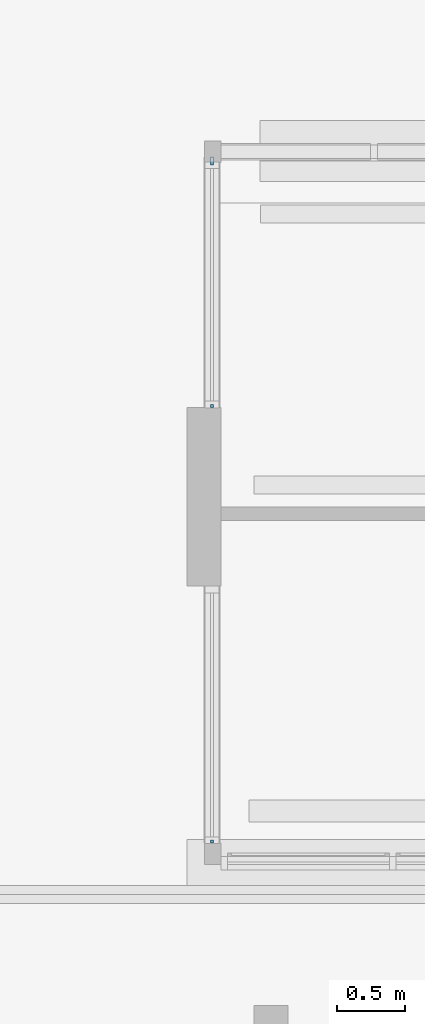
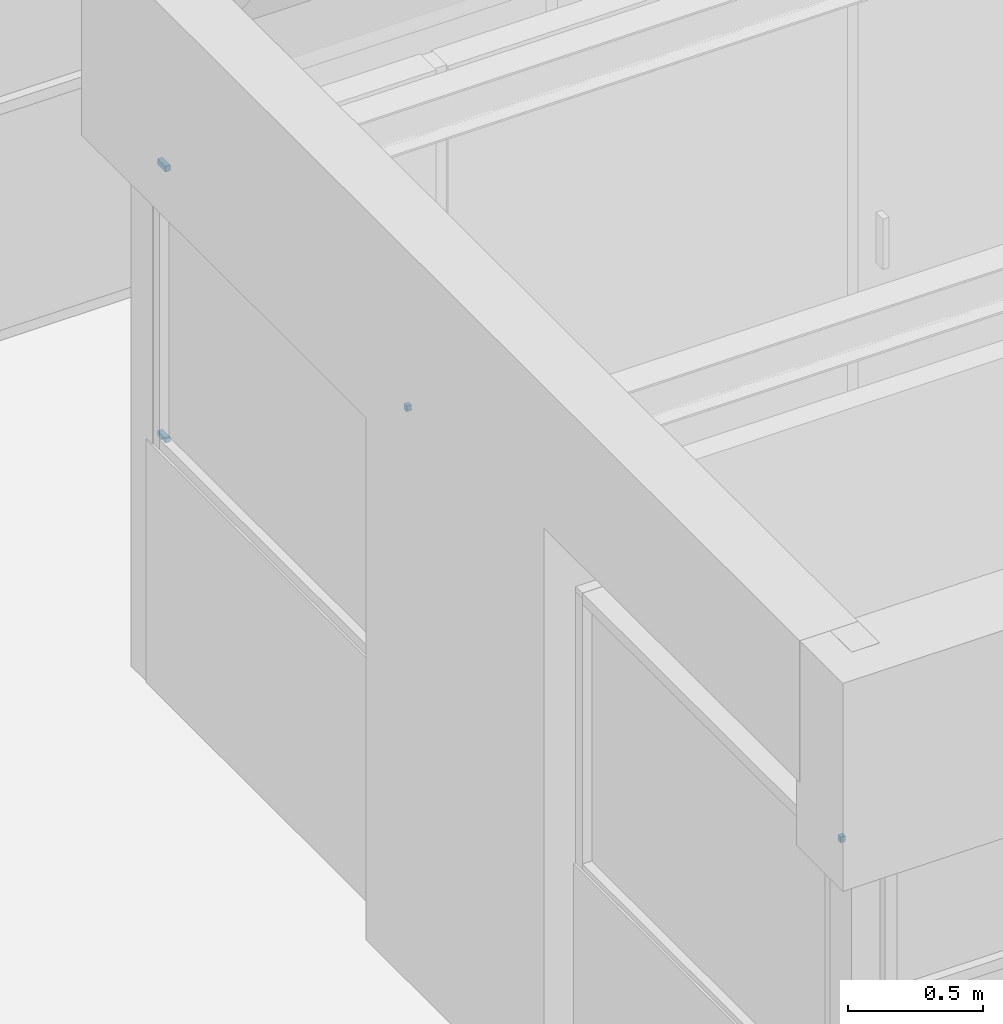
# One storey, part 60 of 117: 4 plates, 2 elements without a shape of their own.
"""IFC4 building model written with IfcOpenShell, lengths in metres."""

from ifc_helpers import new_model, entity, si_unit, converted_unit, derived_unit, direction, frame, origin, place, context, subcontext, project, spatial, indexed_curve, outline, extrude, source, transform, mapped, material, type_object, type_shapes, element, aggregate, save


model = new_model("IFC4")

# Units and contexts
model_context = context("Model", 3, precision=1e-05, world=origin(), true_north=direction((6.123031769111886e-17, 1.0)))
body_context = subcontext(model_context, "Body", "Model", "MODEL_VIEW")
ifc_project = project(units=[si_unit("LENGTHUNIT", "METRE"), si_unit("AREAUNIT", "SQUARE_METRE"), si_unit("VOLUMEUNIT", "CUBIC_METRE"), converted_unit("PLANEANGLEUNIT", "DEGREE", entity("IfcRatioMeasure", 0.017453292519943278), si_unit("PLANEANGLEUNIT", "RADIAN"), dimensions=[0, 0, 0, 0, 0, 0, 0]), si_unit("MASSUNIT", "GRAM", prefix="KILO"), derived_unit("MASSDENSITYUNIT", [(si_unit("MASSUNIT", "GRAM", prefix="KILO"), 1), (si_unit("LENGTHUNIT", "METRE"), -3)]), derived_unit("MOMENTOFINERTIAUNIT", [(si_unit("LENGTHUNIT", "METRE"), 4)]), si_unit("TIMEUNIT", "SECOND"), si_unit("FREQUENCYUNIT", "HERTZ"), si_unit("THERMODYNAMICTEMPERATUREUNIT", "DEGREE_CELSIUS"), derived_unit("THERMALTRANSMITTANCEUNIT", [(si_unit("MASSUNIT", "GRAM", prefix="KILO"), 1), (si_unit("THERMODYNAMICTEMPERATUREUNIT", "KELVIN"), -1), (si_unit("TIMEUNIT", "SECOND"), -3)]), derived_unit("VOLUMETRICFLOWRATEUNIT", [(si_unit("LENGTHUNIT", "METRE"), 3), (si_unit("TIMEUNIT", "SECOND"), -1)]), derived_unit("MASSFLOWRATEUNIT", [(si_unit("MASSUNIT", "GRAM", prefix="KILO"), 1), (si_unit("TIMEUNIT", "SECOND"), -1)]), derived_unit("ROTATIONALFREQUENCYUNIT", [(si_unit("TIMEUNIT", "SECOND"), -1)]), si_unit("ELECTRICCURRENTUNIT", "AMPERE"), si_unit("ELECTRICVOLTAGEUNIT", "VOLT"), si_unit("POWERUNIT", "WATT"), si_unit("FORCEUNIT", "NEWTON", prefix="KILO"), si_unit("ILLUMINANCEUNIT", "LUX"), si_unit("LUMINOUSFLUXUNIT", "LUMEN"), si_unit("LUMINOUSINTENSITYUNIT", "CANDELA"), derived_unit("USERDEFINED", [(si_unit("MASSUNIT", "GRAM", prefix="KILO"), -1), (si_unit("LENGTHUNIT", "METRE"), -2), (si_unit("TIMEUNIT", "SECOND"), 3), (si_unit("LUMINOUSFLUXUNIT", "LUMEN"), 1)]), derived_unit("SOUNDPOWERUNIT", [(si_unit("MASSUNIT", "GRAM", prefix="KILO"), 1), (si_unit("LENGTHUNIT", "METRE"), 2), (si_unit("TIMEUNIT", "SECOND"), -3)]), derived_unit("SOUNDPRESSUREUNIT", [(si_unit("MASSUNIT", "GRAM", prefix="KILO"), 1), (si_unit("LENGTHUNIT", "METRE"), -1), (si_unit("TIMEUNIT", "SECOND"), -2)]), derived_unit("LINEARVELOCITYUNIT", [(si_unit("LENGTHUNIT", "METRE"), 1), (si_unit("TIMEUNIT", "SECOND"), -1)]), si_unit("PRESSUREUNIT", "PASCAL"), derived_unit("USERDEFINED", [(si_unit("LENGTHUNIT", "METRE"), -2), (si_unit("MASSUNIT", "GRAM", prefix="KILO"), 1), (si_unit("TIMEUNIT", "SECOND"), -2)]), derived_unit("LINEARFORCEUNIT", [(si_unit("MASSUNIT", "GRAM", prefix="KILO"), 1), (si_unit("LENGTHUNIT", "METRE"), 1), (si_unit("TIMEUNIT", "SECOND"), -2), (si_unit("LENGTHUNIT", "METRE"), -1)]), derived_unit("PLANARFORCEUNIT", [(si_unit("MASSUNIT", "GRAM", prefix="KILO"), 1), (si_unit("LENGTHUNIT", "METRE"), 1), (si_unit("TIMEUNIT", "SECOND"), -2), (si_unit("LENGTHUNIT", "METRE"), -2)])], contexts=[model_context])

# Site, building, storey
site_placement = place(None, origin())
site = spatial("IfcSite", under=ifc_project, at=site_placement, Name="Superficie", CompositionType="ELEMENT")
building_placement = place(site_placement, origin())
building = spatial("IfcBuilding", under=site, at=building_placement, CompositionType="ELEMENT")
storey_placement = place(building_placement, origin())
storey = spatial("IfcBuildingStorey", under=building, at=storey_placement, Name="Nivel 0", CompositionType="ELEMENT", Elevation=0.0)

# Curtain wall, plate
curtain_wall_type = type_object("IfcCurtainWallType", Name="Muro cortina:Muro cortina - simple", PredefinedType="NOTDEFINED")
curtain_wall_1_placement = place(storey_placement, origin())
curtain_wall_1 = element("IfcCurtainWall", 1, at=curtain_wall_1_placement, inside=storey, type_object=curtain_wall_type, Name="Muro cortina:Muro cortina - simple", ObjectType="Muro cortina:Muro cortina - simple", PredefinedType="NOTDEFINED")
ifc_material = material(Name="Cristal", Category="Vidrio")
plate_type_1 = type_object("IfcPlateType", Name="Panel de sistema:Acristalado", PredefinedType="CURTAIN_PANEL", material=ifc_material)
shared_shape_1 = source(origin(), body_context, "Body", "SweptSolid", [
    extrude(outline(indexed_curve([(-0.01, -0.010000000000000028), (0.01, -0.010000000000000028), (0.01, 0.010000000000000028), (-0.01, 0.010000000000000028), (-0.01, -0.010000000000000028)], self_intersect=False)), frame((0.0, 0.0, 0.0), z_axis=(0.0, 0.0, 1.0), x_axis=(0.0, 1.0, 0.0)), (0.0, 0.0, 1.0), 0.025),
])
type_shapes(plate_type_1, [shared_shape_1])
plate_1_placement = place(curtain_wall_1_placement, frame((0.7267990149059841, -1.5641707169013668, 2.3249999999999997), z_axis=(0.0, 0.0, 1.0), x_axis=(0.0, -1.0, 0.0)))
plate_1 = element("IfcPlate", 2, at=plate_1_placement, type_object=plate_type_1, material=ifc_material, Name="Panel de sistema:Acristalado", ObjectType="Panel de sistema:Acristalado", PredefinedType="CURTAIN_PANEL", context=body_context, shape_type="MappedRepresentation", body=[
    mapped(shared_shape_1, transform((0.0, 0.0, 0.0), scale=1.0)),
])
aggregate(curtain_wall_1, [plate_1])

# Curtain wall, plates
curtain_wall_2_placement = place(storey_placement, origin())
curtain_wall_2 = element("IfcCurtainWall", 3, at=curtain_wall_2_placement, inside=storey, type_object=curtain_wall_type, Name="Muro cortina:Muro cortina - simple", ObjectType="Muro cortina:Muro cortina - simple", PredefinedType="NOTDEFINED")
plate_2_placement = place(curtain_wall_2_placement, frame((0.7267990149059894, 1.6493613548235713, 2.3249999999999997), z_axis=(0.0, 0.0, 1.0), x_axis=(0.0, -1.0, 0.0)))
plate_2 = element("IfcPlate", 4, at=plate_2_placement, type_object=plate_type_1, material=ifc_material, Name="Panel de sistema:Acristalado", ObjectType="Panel de sistema:Acristalado", PredefinedType="CURTAIN_PANEL", context=body_context, shape_type="MappedRepresentation", body=[
    mapped(shared_shape_1, transform((0.0, 0.0, 0.0), scale=1.0)),
])
plate_type_2 = type_object("IfcPlateType", Name="Panel de sistema:Acristalado", PredefinedType="CURTAIN_PANEL", material=ifc_material)
shared_shape_2 = source(origin(), body_context, "Body", "SweptSolid", [
    extrude(outline(indexed_curve([(-0.01, -0.029874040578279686), (0.01, -0.029874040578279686), (0.01, 0.029874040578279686), (-0.01, 0.029874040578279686), (-0.01, -0.029874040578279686)], self_intersect=False)), frame((0.0, 0.0, 0.0), z_axis=(0.0, 0.0, 1.0), x_axis=(0.0, 1.0, 0.0)), (0.0, 0.0, 1.0), 0.02000000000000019),
])
type_shapes(plate_type_2, [shared_shape_2])
plate_3_placement = place(curtain_wall_2_placement, frame((0.7267990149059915, 3.455587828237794, 1.0999999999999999), z_axis=(0.0, 0.0, 1.0), x_axis=(0.0, -1.0, 0.0)))
plate_3 = element("IfcPlate", 5, at=plate_3_placement, type_object=plate_type_2, material=ifc_material, Name="Panel de sistema:Acristalado", ObjectType="Panel de sistema:Acristalado", PredefinedType="CURTAIN_PANEL", context=body_context, shape_type="MappedRepresentation", body=[
    mapped(shared_shape_2, transform((0.0, 0.0, 0.0), scale=1.0)),
])
plate_type_3 = type_object("IfcPlateType", Name="Panel de sistema:Acristalado", PredefinedType="CURTAIN_PANEL", material=ifc_material)
shared_shape_3 = source(origin(), body_context, "Body", "SweptSolid", [
    extrude(outline(indexed_curve([(-0.01, -0.029874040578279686), (0.01, -0.029874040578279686), (0.01, 0.029874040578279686), (-0.01, 0.029874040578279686), (-0.01, -0.029874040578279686)], self_intersect=False)), frame((0.0, 0.0, 0.0), z_axis=(0.0, 0.0, 1.0), x_axis=(0.0, 1.0, 0.0)), (0.0, 0.0, 1.0), 0.025),
])
type_shapes(plate_type_3, [shared_shape_3])
plate_4_placement = place(curtain_wall_2_placement, frame((0.7267990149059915, 3.455587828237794, 2.3249999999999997), z_axis=(0.0, 0.0, 1.0), x_axis=(0.0, -1.0, 0.0)))
plate_4 = element("IfcPlate", 6, at=plate_4_placement, type_object=plate_type_3, material=ifc_material, Name="Panel de sistema:Acristalado", ObjectType="Panel de sistema:Acristalado", PredefinedType="CURTAIN_PANEL", context=body_context, shape_type="MappedRepresentation", body=[
    mapped(shared_shape_3, transform((0.0, 0.0, 0.0), scale=1.0)),
])
aggregate(curtain_wall_2, [plate_3, plate_4, plate_2])

save(model, "model.ifc")
